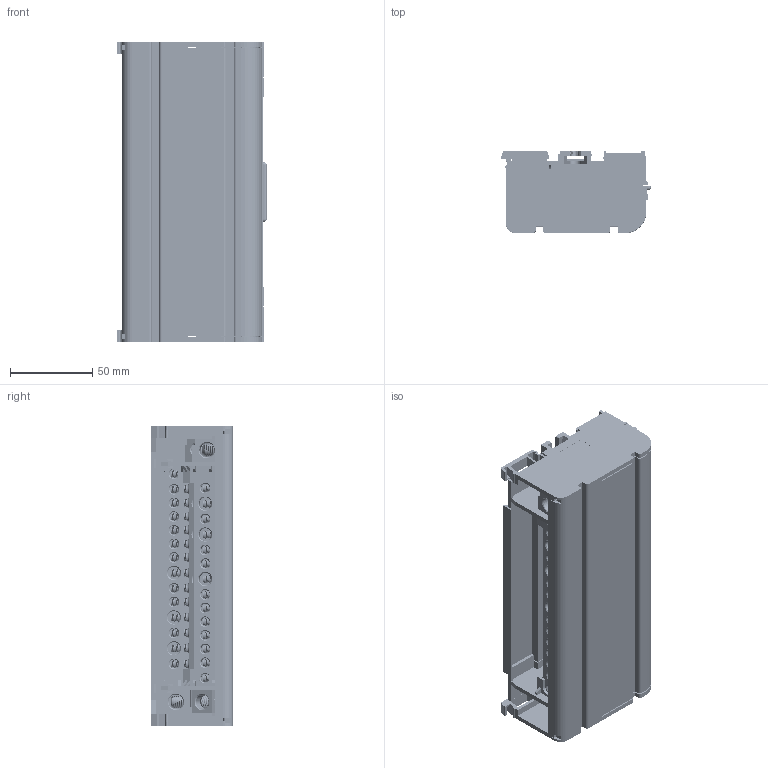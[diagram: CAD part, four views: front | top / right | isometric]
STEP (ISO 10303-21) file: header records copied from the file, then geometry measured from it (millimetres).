
FILE_DESCRIPTION(/* description */ (''),/* implementation_level */ '2;1');
FILE_NAME(/* name */ 'UK415.stp',/* time_stamp */ '2019-12-10T14:54:30+08:00',/* author */ (''),/* organization */ (''),/* preprocessor_version */ 'ST-DEVELOPER v16',/* originating_system */ 'SIEMENS PLM Software NX 10.0',/* authorisation */ '');
FILE_SCHEMA (('AUTOMOTIVE_DESIGN { 1 0 10303 214 3 1 1 1 }'));
Products named in the file (1): Admi1A6064079v0o
Bounding box: 91.01 x 50 x 182 mm (x, y, z)
Volume: 189478.4 mm3; surface area: 215067.5 mm2
Topology: 82 solids, 82 shells, 3071 faces, 8522 edges, 5614 vertices
Faces by surface type: plane 2132, cylinder 481, bspline 248, cone 148, torus 60, sphere 2
Full cylindrical faces by diameter (mm): 4.3 x60, 5.5 x44, 6 x4, 6.5 x56, 7.7 x12, 8 x4, 9 x4
Entity records: 312957 total; most frequent: CARTESIAN_POINT 232035, ORIENTED_EDGE 15886, DIRECTION 13420, EDGE_CURVE 7943, VERTEX_POINT 5424, LINE 5330, VECTOR 5330, AXIS2_PLACEMENT_3D 4045
